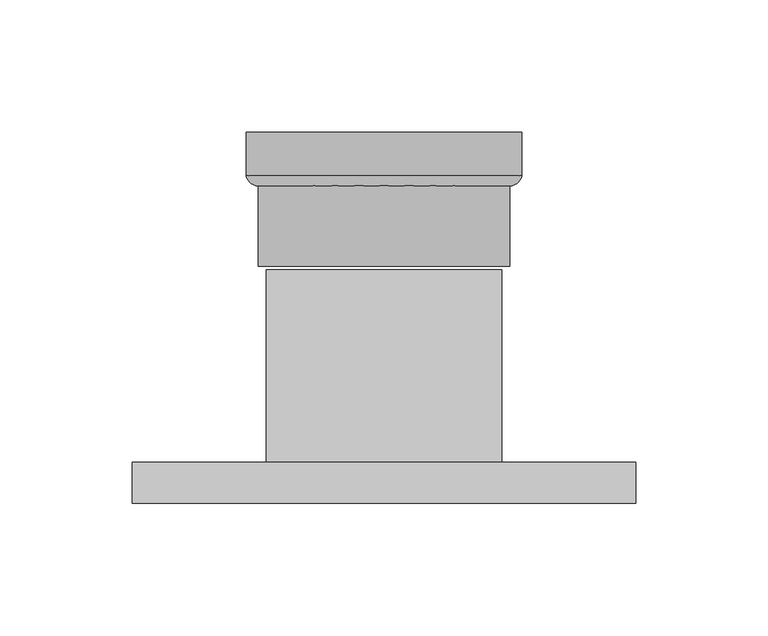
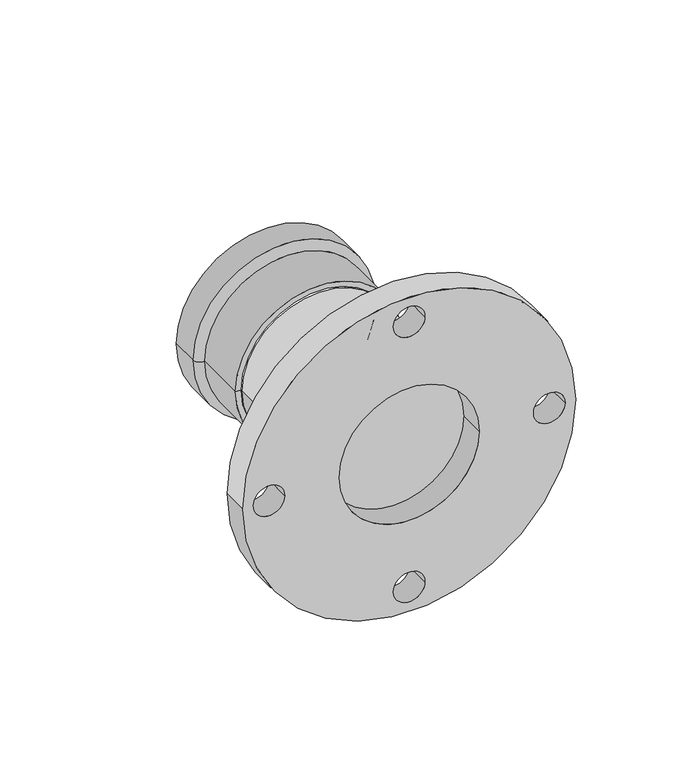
"""IFC4 building model written with IfcOpenShell, lengths in millimetres: pipe fitting geometry, VALTEC_VTi.980.I_Соединитель с переходом на фланец нержавеющая сталь : VTi.980.I."""

from ifc_helpers import new_model, si_unit, point, frame, frame_2d, origin, origin_2d, place, context, project, spatial, polyline, circle_curve, ellipse_curve, trimmed, segment, composite_curve, outline, extrude, source, transform, mapped, element, save
from ifc_brep_helpers import plane_surface, cylinder_surface, revolved_surface, advanced_brep


def pipe_fitting_d5ff4b1f(model_context):
    return source(origin(), model_context, "Body", "SolidModel", [
        advanced_brep(
        [(-44.45, 140.0, 0.0), (44.45, 140.0, 0.0), (52.0, 140.0, 0.0), (-52.0, 140.0, 0.0), (-44.45, 89.5, 0.0), (44.45, 89.5, 0.0), (-47.5, 89.5, 0.0), (47.5, 89.5, 0.0), (-47.5, 119.89, 0.0), (47.5, 119.89, 0.0), (-52.0, 123.6, 0.0), (52.0, 123.6, 0.0)],
        [
            (0, 1, circle_curve(frame((0.0, 140.0, 0.0), z_axis=(0.0, -1.0, 0.0), x_axis=(1.0, 0.0, 0.0)), 44.45)),
            (1, 2),
            (2, 3, circle_curve(frame((0.0, 140.0, 0.0), z_axis=(0.0, 1.0, 0.0), x_axis=(1.0, 0.0, 0.0)), 52.0)),
            (3, 0),
            (1, 0, circle_curve(frame((0.0, 140.0, 0.0), z_axis=(0.0, -1.0, 0.0), x_axis=(1.0, 0.0, 0.0)), 44.45)),
            (3, 2, circle_curve(frame((0.0, 140.0, 0.0), z_axis=(0.0, 1.0, 0.0), x_axis=(1.0, 0.0, 0.0)), 52.0)),
            (4, 5, circle_curve(frame((0.0, 89.5, 0.0), z_axis=(0.0, -1.0, 0.0), x_axis=(1.0, 0.0, 0.0)), 44.45)),
            (5, 1),
            (0, 4),
            (5, 4, circle_curve(frame((0.0, 89.5, 0.0), z_axis=(0.0, -1.0, 0.0), x_axis=(1.0, 0.0, 0.0)), 44.45)),
            (6, 7, circle_curve(frame((0.0, 89.5, 0.0), z_axis=(0.0, -1.0, 0.0), x_axis=(1.0, 0.0, 0.0)), 47.5)),
            (7, 5),
            (4, 6),
            (7, 6, circle_curve(frame((0.0, 89.5, 0.0), z_axis=(0.0, -1.0, 0.0), x_axis=(1.0, 0.0, 0.0)), 47.5)),
            (8, 9, circle_curve(frame((0.0, 119.89, 0.0), z_axis=(0.0, -1.0, 0.0), x_axis=(1.0, 0.0, 0.0)), 47.5)),
            (9, 7),
            (6, 8),
            (9, 8, circle_curve(frame((0.0, 119.89, 0.0), z_axis=(0.0, -1.0, 0.0), x_axis=(1.0, 0.0, 0.0)), 47.5)),
            (10, 11, circle_curve(frame((0.0, 123.6, 0.0), z_axis=(0.0, -1.0, 0.0), x_axis=(1.0, 0.0, 0.0)), 52.0)),
            (11, 9, circle_curve(frame((47.612345, 124.337843, 0.0), z_axis=(0.0, 0.0, -1.0), x_axis=(0.0, -1.0, 0.0)), 4.4492616)),
            (8, 10, circle_curve(frame((-47.612345, 124.337843, 0.0), z_axis=(0.0, 0.0, -1.0), x_axis=(0.0, -1.0, 0.0)), 4.4492616)),
            (11, 10, circle_curve(frame((0.0, 123.6, 0.0), z_axis=(0.0, -1.0, 0.0), x_axis=(1.0, 0.0, 0.0)), 52.0)),
            (2, 11),
            (10, 3),
        ],
        [
            plane_surface(frame((0.0, 140.0, 0.0), z_axis=(0.0, 1.0, 0.0), x_axis=(1.0, 0.0, 0.0))),
            revolved_surface(polyline([(44.45, 140.0, 0.0), (44.45, 89.5, 0.0)]), (0.0, 110.2906392, 0.0), (0.0, 1.0, 0.0)),
            plane_surface(frame((0.0, 89.5, 0.0), z_axis=(0.0, -1.0, 0.0), x_axis=(1.0, 0.0, 0.0))),
            cylinder_surface(frame((0.0, 110.2906392, 0.0), z_axis=(0.0, 1.0, 0.0), x_axis=(1.0, 0.0, 0.0)), 47.5),
            revolved_surface(trimmed(ellipse_curve(frame((47.612345, 124.337843, 0.0), z_axis=(0.0, 0.0, 1.0), x_axis=(0.0, -1.0, 0.0)), 4.4492616, 4.4492616), [point((47.5, 119.89, 0.0))], [point((52.0, 123.6, 0.0))], True, "CARTESIAN"), (0.0, 110.2906392, 0.0), (0.0, 1.0, 0.0)),
            cylinder_surface(frame((0.0, 110.2906392, 0.0), z_axis=(0.0, 1.0, 0.0), x_axis=(1.0, 0.0, 0.0)), 52.0),
        ],
        [
            (0, [[1, 2, 3, 4]]),
            (0, [[5, -4, 6, -2]]),
            (1, [[7, 8, -1, 9]]),
            (1, [[10, -9, -5, -8]]),
            (2, [[11, 12, -7, 13]]),
            (2, [[14, -13, -10, -12]]),
            (3, [[15, 16, -11, 17]]),
            (3, [[18, -17, -14, -16]]),
            (4, [[19, 20, -15, 21]]),
            (4, [[22, -21, -18, -20]]),
            (5, [[-3, 23, -19, 24]]),
            (5, [[-6, -24, -22, -23]]),
        ],
    ),
        extrude(outline(composite_curve([segment(trimmed(circle_curve(origin_2d(), 44.45), [point((0.0, -44.45))], [point((0.0, 44.45))], False, "CARTESIAN"), True, "CONTINUOUS"), segment(trimmed(circle_curve(origin_2d(), 44.45), [point((0.0, 44.45))], [point((0.0, -44.45))], False, "CARTESIAN"), True, "CONTINUOUS")], self_intersect=False)), frame((0.0, 15.5, 0.0), z_axis=(0.0, 1.0, 0.0), x_axis=(0.0, 0.0, 1.0)), (0.0, 0.0, 1.0), 72.7),
        extrude(outline(composite_curve([segment(trimmed(circle_curve(origin_2d(), 95.0), [point((0.0, -95.0))], [point((0.0, 95.0))], False, "CARTESIAN"), True, "CONTINUOUS"), segment(trimmed(circle_curve(origin_2d(), 95.0), [point((0.0, 95.0))], [point((0.0, -95.0))], False, "CARTESIAN"), True, "CONTINUOUS")], self_intersect=False), holes=[composite_curve([segment(trimmed(circle_curve(frame_2d((0.0, -80.0)), 9.0), [point((0.0, -89.0))], [point((0.0, -71.0))], True, "CARTESIAN"), True, "CONTINUOUS"), segment(trimmed(circle_curve(frame_2d((0.0, -80.0)), 9.0), [point((0.0, -71.0))], [point((0.0, -89.0))], True, "CARTESIAN"), True, "CONTINUOUS")], self_intersect=False), composite_curve([segment(trimmed(circle_curve(frame_2d((-80.0, 0.0)), 9.0), [point((-80.0, -9.0))], [point((-80.0, 9.0))], True, "CARTESIAN"), True, "CONTINUOUS"), segment(trimmed(circle_curve(frame_2d((-80.0, 0.0)), 9.0), [point((-80.0, 9.0))], [point((-80.0, -9.0))], True, "CARTESIAN"), True, "CONTINUOUS")], self_intersect=False), composite_curve([segment(trimmed(circle_curve(frame_2d((0.0, 80.0)), 9.0), [point((0.0, 71.0))], [point((0.0, 89.0))], True, "CARTESIAN"), True, "CONTINUOUS"), segment(trimmed(circle_curve(frame_2d((0.0, 80.0)), 9.0), [point((0.0, 89.0))], [point((0.0, 71.0))], True, "CARTESIAN"), True, "CONTINUOUS")], self_intersect=False), composite_curve([segment(trimmed(circle_curve(frame_2d((80.0, 0.0)), 9.0), [point((80.0, -9.0))], [point((80.0, 9.0))], True, "CARTESIAN"), True, "CONTINUOUS"), segment(trimmed(circle_curve(frame_2d((80.0, 0.0)), 9.0), [point((80.0, 9.0))], [point((80.0, -9.0))], True, "CARTESIAN"), True, "CONTINUOUS")], self_intersect=False), composite_curve([segment(trimmed(circle_curve(origin_2d(), 40.0), [point((0.0, -40.0))], [point((0.0, 40.0))], True, "CARTESIAN"), True, "CONTINUOUS"), segment(trimmed(circle_curve(origin_2d(), 40.0), [point((0.0, 40.0))], [point((0.0, -40.0))], True, "CARTESIAN"), True, "CONTINUOUS")], self_intersect=False)]), frame((0.0, 0.0, 0.0), z_axis=(0.0, 1.0, 0.0), x_axis=(0.0, 0.0, 1.0)), (0.0, 0.0, 1.0), 15.5),
    ])


if __name__ == "__main__":
    model = new_model("IFC4")
    model_context = context("Model", 3, world=origin())
    ifc_project = project(units=[si_unit("LENGTHUNIT", "METRE", prefix="MILLI")], contexts=[model_context])
    site = spatial("IfcSite", under=ifc_project)
    building = spatial("IfcBuilding", under=site)
    placement = place(None, origin())
    pipe_fitting_shape = pipe_fitting_d5ff4b1f(model_context)
    element("IfcPipeFitting", 1, ObjectType="VALTEC_VTi.980.I_Соединитель с переходом на фланец нержавеющая сталь : VTi.980.I", at=placement, inside=building, context=model_context, shape_type="MappedRepresentation", body=[
        mapped(pipe_fitting_shape, transform((0.0, 0.0, 0.0), x_axis=(1.0, 0.0, 0.0), y_axis=(0.0, 1.0, 0.0), z_axis=(0.0, 0.0, 1.0))),
    ])
    save(model, "model.ifc")
